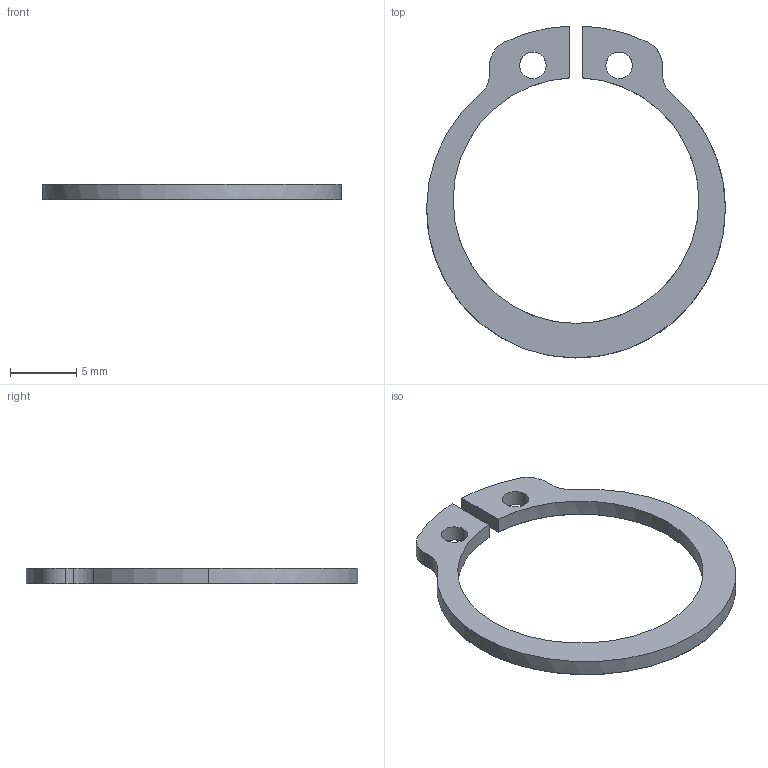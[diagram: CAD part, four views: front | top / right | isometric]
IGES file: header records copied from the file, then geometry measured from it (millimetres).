
Start section: START RECORD GO HERE.
Global section: file name: 553S-R20.igs; native system: DASSAULT SYSTEMES CATIA V5 R20 - www.3ds.com; preprocessor: CATIA Version 5 Release 20 ; author: Utente; organization: NB04-ASUS; date: 20210421.112423; units: millimetre
Bounding box: 22.5 x 24.99 x 1.2 mm (x, y, z)
Surface area: 485.8 mm2 (no closed solid volume)
Topology: 0 solids, 0 shells, 22 faces, 120 edges, 120 vertices
Faces by surface type: revolution 16, plane 6
